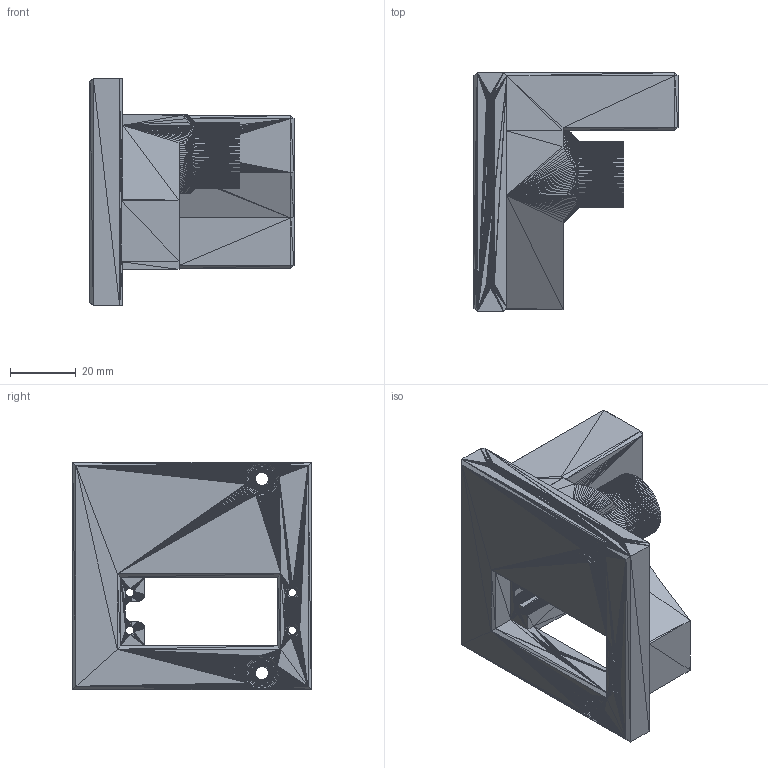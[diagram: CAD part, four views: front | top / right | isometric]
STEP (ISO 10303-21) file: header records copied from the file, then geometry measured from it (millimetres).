
FILE_DESCRIPTION((''),'2;1');
FILE_NAME('Gearbox_Main_x2', '2025-12-07T12:03:52', (''), (''), 'ImageToStl.com STEP Converter','', '');
FILE_SCHEMA(('AUTOMOTIVE_DESIGN_CC2'));
Length unit declared in the file: metre
Products named in the file (1): product0
Bounding box: 62 x 72.5 x 69 mm (x, y, z)
Surface area: 24097.3 mm2 (no closed solid volume)
Topology: 0 solids, 13772 shells, 13772 faces, 41316 edges, 6872 vertices
Faces by surface type: plane 13772
Entity records: 316756 total; most frequent: DIRECTION 68862, ORIENTED_EDGE 41316, EDGE_CURVE 41316, LINE 41316, VECTOR 41316, AXIS2_PLACEMENT_3D 13773, FACE_SURFACE 13772, PLANE 13772
